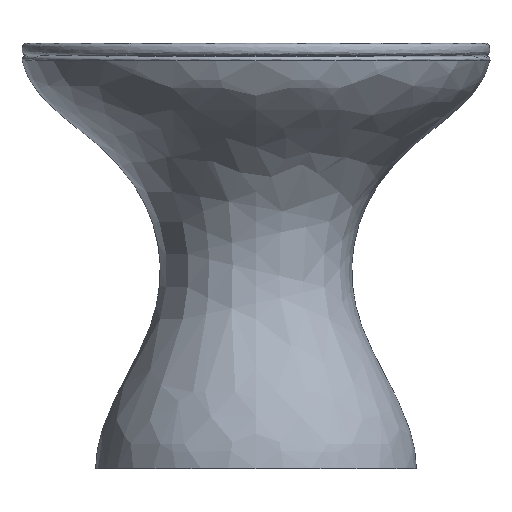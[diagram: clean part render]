
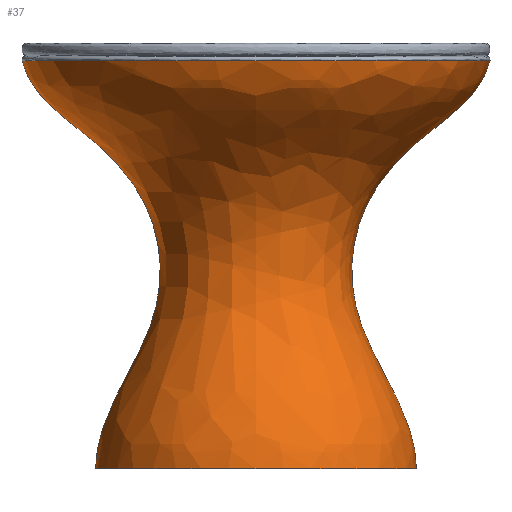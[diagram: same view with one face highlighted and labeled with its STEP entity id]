
A CAD part, front view. The second image highlights one B-rep face of the part: STEP entity #37.
In plain terms, the highlighted free-form (B-spline) face has degree [3, 2] with [12, 5] control points.
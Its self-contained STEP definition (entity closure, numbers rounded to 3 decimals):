
#12=B_SPLINE_CURVE_WITH_KNOTS('',3,(#3177,#3178,#3179,#3180,#3181,#3182,
#3183,#3184,#3185,#3186,#3187,#3188),.UNSPECIFIED.,.F.,.F.,(4,1,1,1,1,1,
1,1,1,4),(0.338,2.488,9.256,14.481,
19.768,25.051,30.073,34.004,36.411,
38.053),.UNSPECIFIED.);
#13=B_SPLINE_CURVE_WITH_KNOTS('',3,(#3242,#3243,#3244,#3245,#3246,#3247,
#3248,#3249,#3250,#3251,#3252,#3253),.UNSPECIFIED.,.F.,.F.,(4,1,1,1,1,1,
1,1,1,4),(0.338,2.488,9.256,14.481,
19.768,25.051,30.073,34.004,36.411,
38.053),.UNSPECIFIED.);
#37=ADVANCED_FACE('',(#54),#237,.T.);
#54=FACE_OUTER_BOUND('',#72,.T.);
#72=EDGE_LOOP('',(#126,#127,#128,#129));
#126=ORIENTED_EDGE('',*,*,#159,.T.);
#127=ORIENTED_EDGE('',*,*,#152,.F.);
#128=ORIENTED_EDGE('',*,*,#151,.F.);
#129=ORIENTED_EDGE('',*,*,#148,.T.);
#148=EDGE_CURVE('',#221,#222,#169,.T.);
#151=EDGE_CURVE('',#221,#215,#12,.T.);
#152=EDGE_CURVE('',#215,#223,#170,.T.);
#159=EDGE_CURVE('',#222,#223,#13,.T.);
#169=TRIMMED_CURVE($,#184,(#3135),(#3136),.T.,.CARTESIAN.);
#170=TRIMMED_CURVE($,#185,(#3190),(#3191),.T.,.CARTESIAN.);
#184=CIRCLE('',#335,189.803);
#185=CIRCLE('',#336,130.166);
#215=VERTEX_POINT('',#2963);
#221=VERTEX_POINT('',#2969);
#222=VERTEX_POINT('',#2970);
#223=VERTEX_POINT('',#2971);
#237=(
BOUNDED_SURFACE()
B_SPLINE_SURFACE(3,2,((#2886,#2887,#2888,#2889,#2890),(#2891,#2892,#2893,
#2894,#2895),(#2896,#2897,#2898,#2899,#2900),(#2901,#2902,#2903,#2904,#2905),
(#2906,#2907,#2908,#2909,#2910),(#2911,#2912,#2913,#2914,#2915),(#2916,
#2917,#2918,#2919,#2920),(#2921,#2922,#2923,#2924,#2925),(#2926,#2927,#2928,
#2929,#2930),(#2931,#2932,#2933,#2934,#2935),(#2936,#2937,#2938,#2939,#2940),
(#2941,#2942,#2943,#2944,#2945)),.UNSPECIFIED.,.F.,.F.,.F.)
B_SPLINE_SURFACE_WITH_KNOTS((4,1,1,1,1,1,1,1,1,4),(3,2,3),(0.,2.488,
9.256,14.481,19.768,25.051,30.073,
34.004,36.411,38.053),(59.477,89.215,
118.954),.UNSPECIFIED.)
GEOMETRIC_REPRESENTATION_ITEM()
RATIONAL_B_SPLINE_SURFACE(((1.,0.707,1.,0.707,1.),
(1.,0.707,1.,0.707,1.),(1.,0.707,1.,
0.707,1.),(1.,0.707,1.,0.707,1.),(1.,
0.707,1.,0.707,1.),(1.,0.707,1.,0.707,
1.),(1.,0.707,1.,0.707,1.),(1.,0.707,
1.,0.707,1.),(1.,0.707,1.,0.707,1.),
(1.,0.707,1.,0.707,1.),(1.,0.707,1.,
0.707,1.),(1.,0.707,1.,0.707,1.)))
REPRESENTATION_ITEM('')
SURFACE()
);
#335=AXIS2_PLACEMENT_3D($,#3134,#361,#362);
#336=AXIS2_PLACEMENT_3D($,#3189,#363,#364);
#361=DIRECTION('',(0.,0.,-1.));
#362=DIRECTION('',(1.,0.,0.));
#363=DIRECTION('',(0.,0.,-1.));
#364=DIRECTION('',(1.,0.,0.));
#2886=CARTESIAN_POINT('',(270.903,-779.663,334.845));
#2887=CARTESIAN_POINT('',(270.903,-970.21,334.845));
#2888=CARTESIAN_POINT('',(461.449,-970.21,334.845));
#2889=CARTESIAN_POINT('',(651.996,-970.21,334.845));
#2890=CARTESIAN_POINT('',(651.996,-779.663,334.845));
#2891=CARTESIAN_POINT('',(272.444,-779.663,325.593));
#2892=CARTESIAN_POINT('',(272.444,-968.668,325.593));
#2893=CARTESIAN_POINT('',(461.449,-968.668,325.593));
#2894=CARTESIAN_POINT('',(650.455,-968.668,325.593));
#2895=CARTESIAN_POINT('',(650.455,-779.663,325.593));
#2896=CARTESIAN_POINT('',(286.175,-779.663,296.399));
#2897=CARTESIAN_POINT('',(286.175,-954.937,296.399));
#2898=CARTESIAN_POINT('',(461.449,-954.937,296.399));
#2899=CARTESIAN_POINT('',(636.724,-954.937,296.399));
#2900=CARTESIAN_POINT('',(636.724,-779.663,296.399));
#2901=CARTESIAN_POINT('',(329.378,-779.663,269.714));
#2902=CARTESIAN_POINT('',(329.378,-911.734,269.714));
#2903=CARTESIAN_POINT('',(461.449,-911.734,269.714));
#2904=CARTESIAN_POINT('',(593.521,-911.734,269.714));
#2905=CARTESIAN_POINT('',(593.521,-779.663,269.714));
#2906=CARTESIAN_POINT('',(368.905,-779.663,226.553));
#2907=CARTESIAN_POINT('',(368.905,-872.207,226.553));
#2908=CARTESIAN_POINT('',(461.449,-872.207,226.553));
#2909=CARTESIAN_POINT('',(553.994,-872.207,226.553));
#2910=CARTESIAN_POINT('',(553.994,-779.663,226.553));
#2911=CARTESIAN_POINT('',(387.086,-779.663,174.789));
#2912=CARTESIAN_POINT('',(387.086,-854.026,174.789));
#2913=CARTESIAN_POINT('',(461.449,-854.026,174.789));
#2914=CARTESIAN_POINT('',(535.813,-854.026,174.789));
#2915=CARTESIAN_POINT('',(535.813,-779.663,174.789));
#2916=CARTESIAN_POINT('',(380.919,-779.663,121.028));
#2917=CARTESIAN_POINT('',(380.919,-860.193,121.028));
#2918=CARTESIAN_POINT('',(461.449,-860.193,121.028));
#2919=CARTESIAN_POINT('',(541.98,-860.193,121.028));
#2920=CARTESIAN_POINT('',(541.98,-779.663,121.028));
#2921=CARTESIAN_POINT('',(357.892,-779.663,78.816));
#2922=CARTESIAN_POINT('',(357.892,-883.22,78.816));
#2923=CARTESIAN_POINT('',(461.449,-883.22,78.816));
#2924=CARTESIAN_POINT('',(565.007,-883.22,78.816));
#2925=CARTESIAN_POINT('',(565.007,-779.663,78.816));
#2926=CARTESIAN_POINT('',(340.569,-779.663,44.873));
#2927=CARTESIAN_POINT('',(340.569,-900.543,44.873));
#2928=CARTESIAN_POINT('',(461.449,-900.543,44.873));
#2929=CARTESIAN_POINT('',(582.33,-900.543,44.873));
#2930=CARTESIAN_POINT('',(582.33,-779.663,44.873));
#2931=CARTESIAN_POINT('',(332.559,-779.663,19.114));
#2932=CARTESIAN_POINT('',(332.559,-908.553,19.114));
#2933=CARTESIAN_POINT('',(461.449,-908.553,19.114));
#2934=CARTESIAN_POINT('',(590.34,-908.553,19.114));
#2935=CARTESIAN_POINT('',(590.34,-779.663,19.114));
#2936=CARTESIAN_POINT('',(331.38,-779.663,5.508));
#2937=CARTESIAN_POINT('',(331.38,-909.733,5.508));
#2938=CARTESIAN_POINT('',(461.449,-909.733,5.508));
#2939=CARTESIAN_POINT('',(591.519,-909.733,5.508));
#2940=CARTESIAN_POINT('',(591.519,-779.663,5.508));
#2941=CARTESIAN_POINT('',(331.283,-779.663,0.));
#2942=CARTESIAN_POINT('',(331.283,-909.829,0.));
#2943=CARTESIAN_POINT('',(461.449,-909.829,0.));
#2944=CARTESIAN_POINT('',(591.616,-909.829,0.));
#2945=CARTESIAN_POINT('',(591.616,-779.663,0.));
#2963=CARTESIAN_POINT('',(591.616,-779.663,0.));
#2969=CARTESIAN_POINT('',(651.253,-779.663,331.154));
#2970=CARTESIAN_POINT('',(271.646,-779.663,331.154));
#2971=CARTESIAN_POINT('',(331.283,-779.663,0.));
#3134=CARTESIAN_POINT('',(461.449,-779.663,331.154));
#3135=CARTESIAN_POINT('',(651.253,-779.663,331.154));
#3136=CARTESIAN_POINT('',(271.646,-779.663,331.154));
#3177=CARTESIAN_POINT('',(651.253,-779.663,331.154));
#3178=CARTESIAN_POINT('',(649.435,-779.663,323.479));
#3179=CARTESIAN_POINT('',(635.716,-779.663,295.777));
#3180=CARTESIAN_POINT('',(593.521,-779.663,269.714));
#3181=CARTESIAN_POINT('',(553.994,-779.663,226.553));
#3182=CARTESIAN_POINT('',(535.813,-779.663,174.789));
#3183=CARTESIAN_POINT('',(541.98,-779.663,121.028));
#3184=CARTESIAN_POINT('',(565.007,-779.663,78.816));
#3185=CARTESIAN_POINT('',(582.33,-779.663,44.873));
#3186=CARTESIAN_POINT('',(590.34,-779.663,19.114));
#3187=CARTESIAN_POINT('',(591.519,-779.663,5.508));
#3188=CARTESIAN_POINT('',(591.616,-779.663,0.));
#3189=CARTESIAN_POINT('',(461.449,-779.663,0.));
#3190=CARTESIAN_POINT('',(591.616,-779.663,0.));
#3191=CARTESIAN_POINT('',(331.283,-779.663,0.));
#3242=CARTESIAN_POINT('',(271.646,-779.663,331.154));
#3243=CARTESIAN_POINT('',(273.464,-779.663,323.479));
#3244=CARTESIAN_POINT('',(287.183,-779.663,295.777));
#3245=CARTESIAN_POINT('',(329.378,-779.663,269.714));
#3246=CARTESIAN_POINT('',(368.905,-779.663,226.553));
#3247=CARTESIAN_POINT('',(387.086,-779.663,174.789));
#3248=CARTESIAN_POINT('',(380.919,-779.663,121.028));
#3249=CARTESIAN_POINT('',(357.892,-779.663,78.816));
#3250=CARTESIAN_POINT('',(340.569,-779.663,44.873));
#3251=CARTESIAN_POINT('',(332.559,-779.663,19.114));
#3252=CARTESIAN_POINT('',(331.38,-779.663,5.508));
#3253=CARTESIAN_POINT('',(331.283,-779.663,0.));
